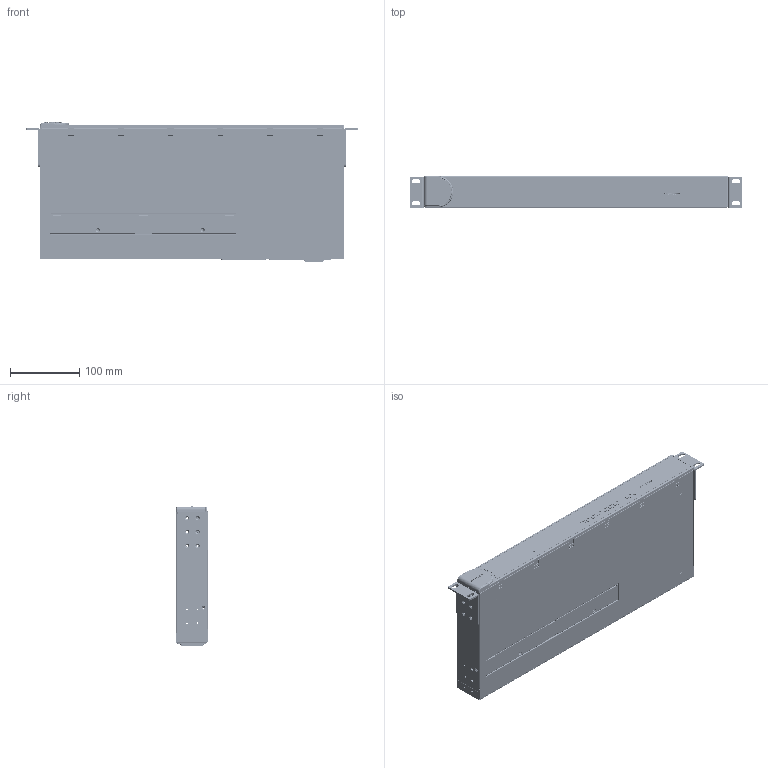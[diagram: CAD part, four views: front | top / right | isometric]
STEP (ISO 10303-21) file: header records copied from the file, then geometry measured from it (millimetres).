
FILE_DESCRIPTION((''),'2;1');
FILE_NAME('PRT0011','2018-03-27T',('Bryce_Huang'),('PTC'),'PRO/ENGINEER BY PARAMETRIC TECHNOLOGY CORPORATION, 2013230','PRO/ENGINEER BY PARAMETRIC TECHNOLOGY CORPORATION, 2013230','');
FILE_SCHEMA(('AUTOMOTIVE_DESIGN { 1 0 10303 214 1 1 1 1 }'));
Products named in the file (1): PRT0011
Bounding box: 480 x 46 x 201.85 mm (x, y, z)
Volume: 358776.6 mm3; surface area: 786576.2 mm2
Topology: 17 solids, 33 shells, 6768 faces, 17824 edges, 11517 vertices
Faces by surface type: plane 4020, cylinder 2357, cone 133, torus 121, bspline 118, extrusion 15, sphere 4
Entity records: 240722 total; most frequent: CARTESIAN_POINT 45681, ORIENTED_EDGE 35642, DIRECTION 34859, EDGE_CURVE 17824, VECTOR 11745, LINE 11730, AXIS2_PLACEMENT_3D 11557, VERTEX_POINT 11518
